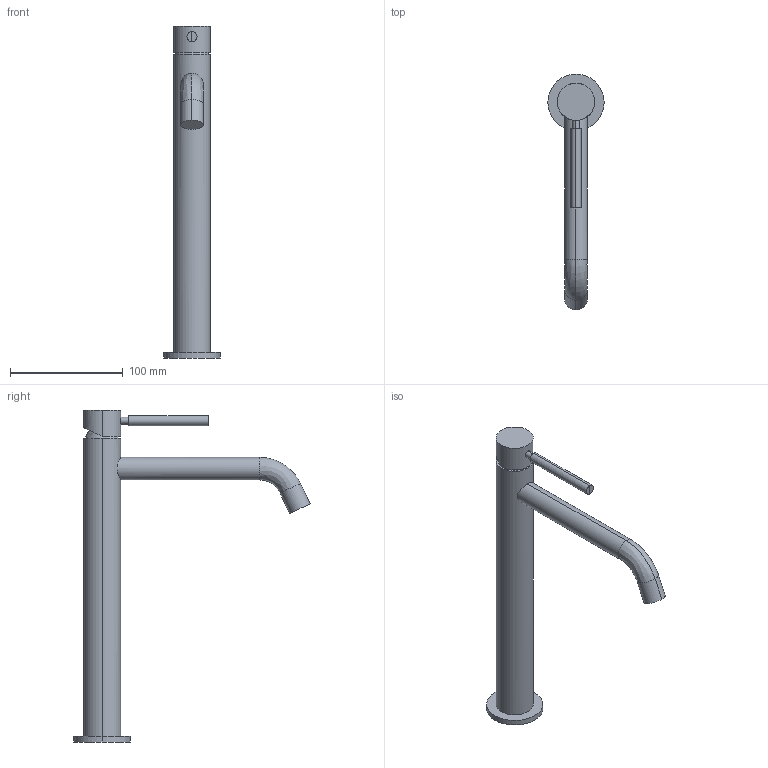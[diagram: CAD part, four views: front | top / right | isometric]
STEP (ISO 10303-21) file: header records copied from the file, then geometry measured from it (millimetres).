
FILE_DESCRIPTION(('FreeCAD Model'),'2;1');
FILE_NAME('Open CASCADE Shape Model','2024-07-23T14:28:34',('Author'),( ''),'Open CASCADE STEP processor 7.6','FreeCAD','Unknown');
FILE_SCHEMA(('AUTOMOTIVE_DESIGN { 1 0 10303 214 1 1 1 1 }'));
Length unit declared in the file: millimetre
Products named in the file (5): TopLevelAssembly; Wyciąganie001; Obrót profilu; Połączona geometria bryłowa; Połączona geometria bryłowa001
Assembly tree (4 placements, depth 2):
  TopLevelAssembly
    Wyciąganie001
    Obrót profilu
    Połączona geometria bryłowa
    Połączona geometria bryłowa001
Bounding box: 50 x 209.76 x 295 mm (x, y, z)
Volume: 320955.1 mm3; surface area: 53108.4 mm2
Topology: 4 solids, 4 shells, 32 faces, 55 edges, 31 vertices
Faces by surface type: plane 14, cylinder 14, bspline 4
Entity records: 971 total; most frequent: CARTESIAN_POINT 255, DIRECTION 145, ORIENTED_EDGE 106, AXIS2_PLACEMENT_3D 63, EDGE_CURVE 53, FACE_BOUND 34, EDGE_LOOP 34, ADVANCED_FACE 32
